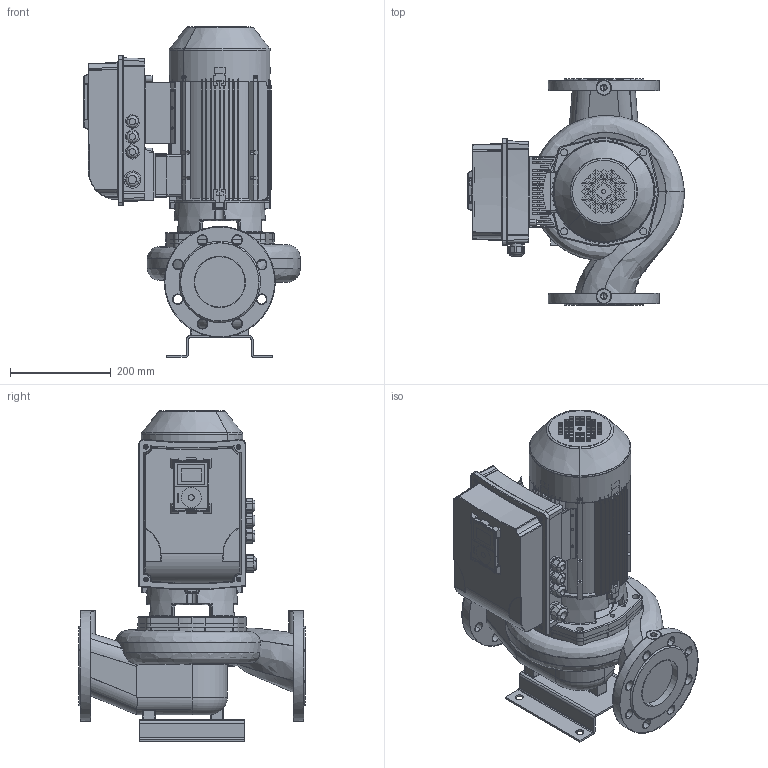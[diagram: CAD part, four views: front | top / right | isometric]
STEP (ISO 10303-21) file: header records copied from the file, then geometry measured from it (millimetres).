
FILE_DESCRIPTION(('STEP AP214'),'1');
FILE_NAME('export.stp','2018-06-01T12:39:58',(' '),(' '),'Spatial InterOp 3D',' ',' ');
FILE_SCHEMA(('AUTOMOTIVE_DESIGN { 1 0 10303 214 1 1 1 1 }'));
Length unit declared in the file: millimetre
Products named in the file (24): 160027; 160005; V_MKP100-2-F19_VS; 160060___; 160059___; 160136; Vacon_MS2; G43699; Vacon20CP_MS2; MS2_bottom_final; P101407; MS2_cover_final; Vacon_Display; CAD-3D-VACON-M100-Display.sldasm; Vacon_display_pla; Vacon_display_scr; DIN_966-M5x10; M20_tiivisteholkk; M25_tiivisteholkk; SOVITUSPALA; W_AL11024300_KPVS; V_TLL65AB80A1102; V_PPAL1102; V_JALKA35973
Assembly tree (28 placements, depth 6):
  W_AL11024300_KPVS
    V_MKP100-2-F19_VS
      160027
        160005
      160060___
      160059___
      160136
      Vacon_MS2
        G43699
        Vacon20CP_MS2
          MS2_bottom_final
          P101407
          MS2_cover_final
          Vacon_Display
            CAD-3D-VACON-M100-Display.sldasm
            Vacon_display_pla
            Vacon_display_scr
          DIN_966-M5x10  x4
          M20_tiivisteholkk  x3
          M25_tiivisteholkk
      SOVITUSPALA
    V_TLL65AB80A1102
    V_PPAL1102
    V_JALKA35973
Bounding box: 430.31 x 450 x 657 mm (x, y, z)
Volume: 4631435 mm3; surface area: 3097355.8 mm2
Topology: 22 solids, 1496 shells, 5158 faces, 17649 edges, 13953 vertices
Faces by surface type: bspline 1771, plane 1433, cylinder 1202, torus 410, cone 280, sphere 54, offset 8
Entity records: 246478 total; most frequent: CARTESIAN_POINT 102017, ORIENTED_EDGE 26366, DIRECTION 17844, EDGE_CURVE 17007, VERTEX_POINT 13635, B_SPLINE_CURVE_WITH_KNOTS 7848, AXIS2_PLACEMENT_3D 6823, EDGE_LOOP 5459
